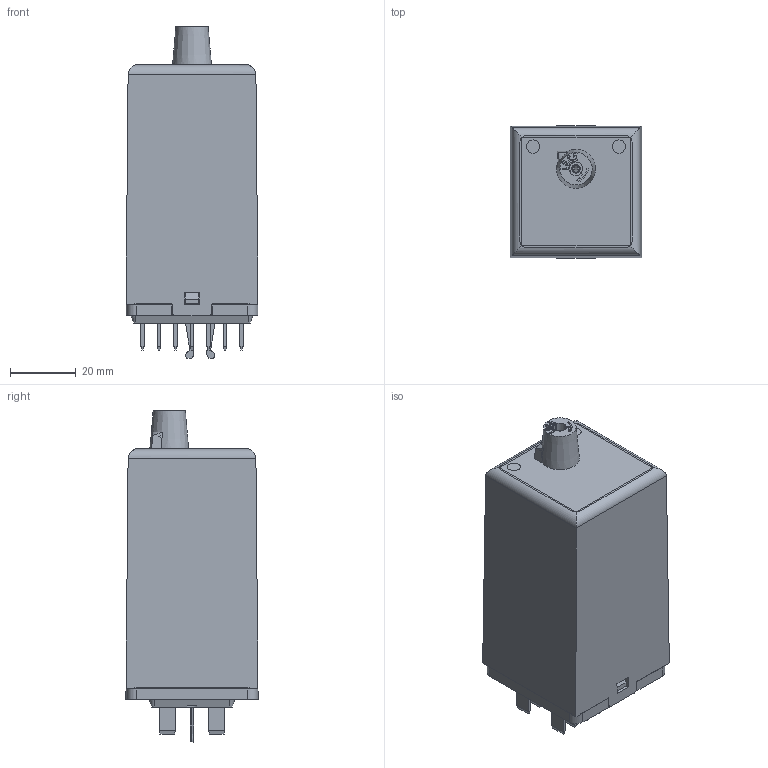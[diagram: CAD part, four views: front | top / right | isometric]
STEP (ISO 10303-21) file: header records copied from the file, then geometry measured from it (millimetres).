
FILE_DESCRIPTION((''),'2;1');
FILE_NAME('I:\TI\Bibliotheek\Inventor\Relais\UMD\UMD variable.stp','2011-03-08T14:49:09',('oey'),(''),'Autodesk Inventor 2011','Autodesk Inventor 2011','');
FILE_SCHEMA(('AUTOMOTIVE_DESIGN { 1 0 10303 214 1 1 1 1 }'));
Length unit declared in the file: millimetre
Products named in the file (12): UMD variable; 395124311 Montagepl. D print; 375092400 Montageplaat D-relais; 396804000 Snapveer D; 373111700 Buisn. 2,5x 8,0 ms vern; 391131401 Contactstrip D print; 394526103 Kap UMD blauw; 394526403 Kap D hoog bl 2LED lro; 394526400 Kap D hoog uitv.snapnok; 394526403 Kap D hoog bl 2LED lro_1; 374355001 Pijlknop D; Knop D
Assembly tree (25 placements, depth 4):
  UMD variable
    395124311 Montagepl. D print
      375092400 Montageplaat D-relais
      396804000 Snapveer D  x2
      373111700 Buisn. 2,5x 8,0 ms vern
      391131401 Contactstrip D print  x14
    394526103 Kap UMD blauw
      394526403 Kap D hoog bl 2LED lro
        394526400 Kap D hoog uitv.snapnok
        394526403 Kap D hoog bl 2LED lro_1
    374355001 Pijlknop D
      Knop D
Bounding box: 40 x 40.06 x 100.65 mm (x, y, z)
Volume: 30009.5 mm3; surface area: 39286.3 mm2
Topology: 21 solids, 21 shells, 1503 faces, 4135 edges, 2700 vertices
Faces by surface type: plane 920, cylinder 383, bspline 134, sphere 56, cone 9, torus 1
Full cylindrical faces by diameter (mm): 1.6 x14, 1.7 x1, 2.2 x1, 2.7 x4, 4 x2, 5.4 x1, 6 x2
Entity records: 36742 total; most frequent: CARTESIAN_POINT 8302, ORIENTED_EDGE 6096, DIRECTION 5508, EDGE_CURVE 3048, VECTOR 2052, LINE 2052, VERTEX_POINT 1996, AXIS2_PLACEMENT_3D 1728
